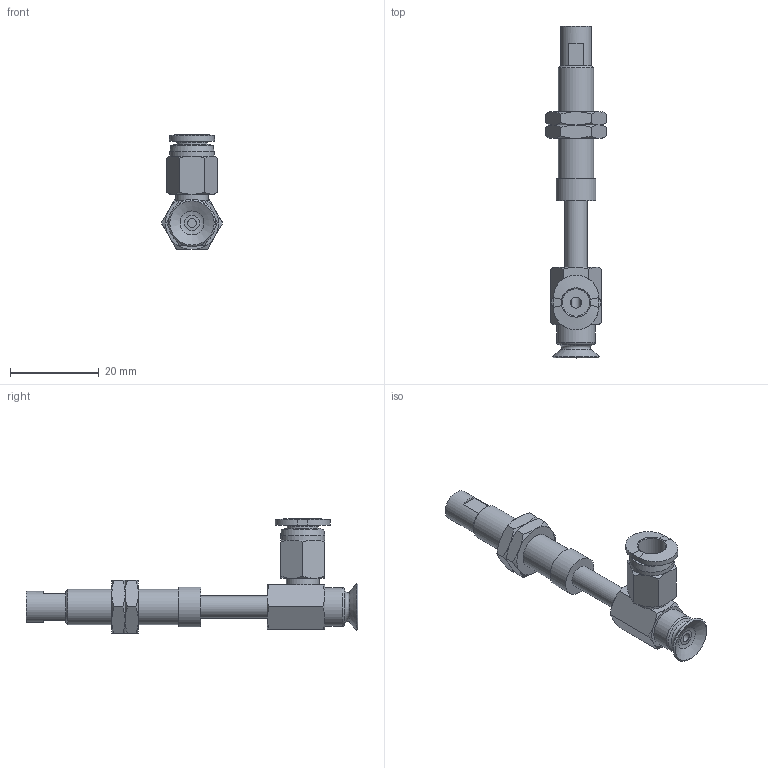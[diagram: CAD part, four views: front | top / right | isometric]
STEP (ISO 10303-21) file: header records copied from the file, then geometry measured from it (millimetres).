
FILE_DESCRIPTION(('STEP AP203'),'1');
FILE_NAME('-O.stp','2025-04-09T06:56:37',(' '),(' '),'Spatial InterOp 3D',' ',' ');
FILE_SCHEMA(('CONFIG_CONTROL_DESIGN'));
Length unit declared in the file: millimetre
Products named in the file (7): BNABPFYS-10A-15-※-O; CONNECTOR-10A-15; Nut-10A-15-s; NAPFTS-10A-15-FBODY; NAPFTS-10A-15-MBODY; BPFG-10A-※; PC-C_06-M5
Assembly tree (7 placements, depth 2):
  BNABPFYS-10A-15-※-O
    CONNECTOR-10A-15
    Nut-10A-15-s  x2
    NAPFTS-10A-15-FBODY
    NAPFTS-10A-15-MBODY
    BPFG-10A-※
    PC-C_06-M5
Bounding box: 13.86 x 75 x 25.98 mm (x, y, z)
Volume: 3929.6 mm3; surface area: 5879.1 mm2
Topology: 6 solids, 9 shells, 180 faces, 372 edges, 225 vertices
Faces by surface type: plane 69, cone 67, cylinder 26, torus 10, bspline 5, revolution 3
Full cylindrical faces by diameter (mm): 2 x2, 4 x4, 4.134 x2, 5 x4, 6 x2, 7 x2, 7.188 x2, 7.4 x1, 8 x1, 8.2 x1, 8.7 x1, 9 x1, 10 x1
Entity records: 4643 total; most frequent: CARTESIAN_POINT 1339, DIRECTION 615, ORIENTED_EDGE 522, AXIS2_PLACEMENT_3D 277, EDGE_CURVE 263, EDGE_LOOP 236, VERTEX_POINT 187, FACE_OUTER_BOUND 131
